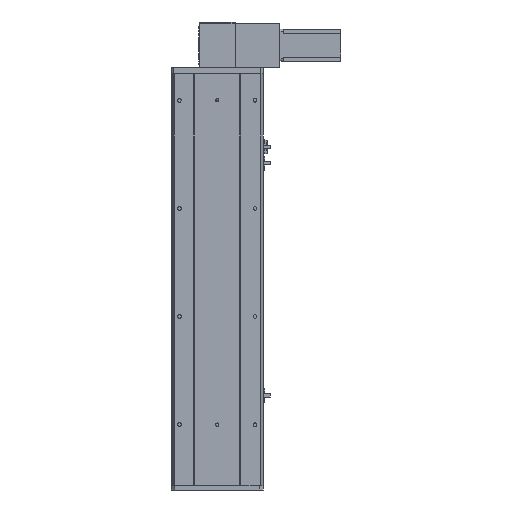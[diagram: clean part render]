
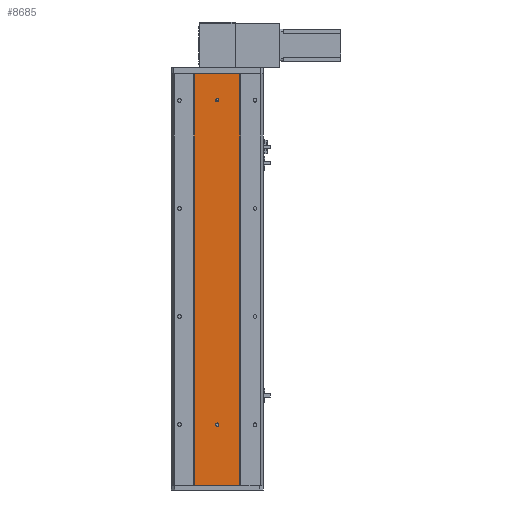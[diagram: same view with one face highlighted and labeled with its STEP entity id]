
A CAD part, front view. The second image highlights one B-rep face of the part: STEP entity #8685.
In plain terms, the highlighted planar face has unit normal (0, -1, 0).
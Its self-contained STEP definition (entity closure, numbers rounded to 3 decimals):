
#186 = CARTESIAN_POINT ( 'NONE',  ( 85., 2.57, 110. ) ) ;
#685 = FACE_BOUND ( 'NONE', #3641, .T. ) ;
#719 = VECTOR ( 'NONE', #10075, 1000. ) ;
#771 = CARTESIAN_POINT ( 'NONE',  ( 126.916, 2.57, 762. ) ) ;
#790 = VERTEX_POINT ( 'NONE', #18202 ) ;
#812 = VECTOR ( 'NONE', #4491, 1000. ) ;
#968 = CARTESIAN_POINT ( 'NONE',  ( 85., 2.57, 716. ) ) ;
#1316 = EDGE_CURVE ( 'NONE', #23487, #4113, #3991, .T. ) ;
#1735 = CIRCLE ( 'NONE', #5404, 3. ) ;
#1754 = VERTEX_POINT ( 'NONE', #23209 ) ;
#1808 = DIRECTION ( 'NONE',  ( 0., 0., 1. ) ) ;
#1982 = DIRECTION ( 'NONE',  ( 0., 1., 0. ) ) ;
#2633 = EDGE_CURVE ( 'NONE', #4153, #1754, #18711, .T. ) ;
#2766 = DIRECTION ( 'NONE',  ( 0., 1., 0. ) ) ;
#3641 = EDGE_LOOP ( 'NONE', ( #12100, #27013 ) ) ;
#3776 = CARTESIAN_POINT ( 'NONE',  ( 42.916, 2.57, 0. ) ) ;
#3991 = CIRCLE ( 'NONE', #13269, 3. ) ;
#4113 = VERTEX_POINT ( 'NONE', #968 ) ;
#4153 = VERTEX_POINT ( 'NONE', #186 ) ;
#4254 = VECTOR ( 'NONE', #16929, 1000. ) ;
#4491 = DIRECTION ( 'NONE',  ( -1., 0., 0. ) ) ;
#4703 = VERTEX_POINT ( 'NONE', #23665 ) ;
#5404 = AXIS2_PLACEMENT_3D ( 'NONE', #15266, #1982, #17364 ) ;
#6163 = DIRECTION ( 'NONE',  ( 0., 0., 1. ) ) ;
#6261 = DIRECTION ( 'NONE',  ( 0., 1., 0. ) ) ;
#6306 = CARTESIAN_POINT ( 'NONE',  ( 85., 2.57, 113. ) ) ;
#6637 = LINE ( 'NONE', #16590, #719 ) ;
#6711 = CARTESIAN_POINT ( 'NONE',  ( 42.916, 2.57, 762. ) ) ;
#6956 = ORIENTED_EDGE ( 'NONE', *, *, #16595, .T. ) ;
#7226 = ORIENTED_EDGE ( 'NONE', *, *, #1316, .T. ) ;
#7883 = DIRECTION ( 'NONE',  ( 0., 0., 1. ) ) ;
#7890 = CARTESIAN_POINT ( 'NONE',  ( 85., 2.57, 713. ) ) ;
#8097 = DIRECTION ( 'NONE',  ( 0., 1., 0. ) ) ;
#8685 = ADVANCED_FACE ( 'NONE', ( #18185, #685, #23061 ), #21756, .F. ) ;
#8700 = ORIENTED_EDGE ( 'NONE', *, *, #25759, .T. ) ;
#10075 = DIRECTION ( 'NONE',  ( 0., 0., 1. ) ) ;
#10158 = LINE ( 'NONE', #3776, #4254 ) ;
#10709 = AXIS2_PLACEMENT_3D ( 'NONE', #27250, #23451, #16482 ) ;
#11806 = CARTESIAN_POINT ( 'NONE',  ( 85., 2.57, 710. ) ) ;
#11913 = VERTEX_POINT ( 'NONE', #771 ) ;
#12100 = ORIENTED_EDGE ( 'NONE', *, *, #2633, .T. ) ;
#13269 = AXIS2_PLACEMENT_3D ( 'NONE', #7890, #8097, #7883 ) ;
#13334 = LINE ( 'NONE', #6711, #812 ) ;
#14540 = EDGE_LOOP ( 'NONE', ( #7226, #19397 ) ) ;
#15266 = CARTESIAN_POINT ( 'NONE',  ( 85., 2.57, 713. ) ) ;
#15820 = EDGE_LOOP ( 'NONE', ( #8700, #17698, #17415, #6956 ) ) ;
#15997 = CARTESIAN_POINT ( 'NONE',  ( 85., 2.57, 113. ) ) ;
#16308 = VECTOR ( 'NONE', #1808, 1000. ) ;
#16482 = DIRECTION ( 'NONE',  ( 0., 0., 1. ) ) ;
#16590 = CARTESIAN_POINT ( 'NONE',  ( 42.916, 2.57, 0. ) ) ;
#16595 = EDGE_CURVE ( 'NONE', #790, #11913, #18247, .T. ) ;
#16929 = DIRECTION ( 'NONE',  ( -1., 0., 0. ) ) ;
#17003 = EDGE_CURVE ( 'NONE', #20529, #4703, #6637, .T. ) ;
#17217 = EDGE_CURVE ( 'NONE', #4113, #23487, #1735, .T. ) ;
#17364 = DIRECTION ( 'NONE',  ( 0., 0., 1. ) ) ;
#17415 = ORIENTED_EDGE ( 'NONE', *, *, #26615, .F. ) ;
#17447 = EDGE_CURVE ( 'NONE', #1754, #4153, #19497, .T. ) ;
#17698 = ORIENTED_EDGE ( 'NONE', *, *, #17003, .F. ) ;
#18093 = DIRECTION ( 'NONE',  ( 0., 0., 1. ) ) ;
#18185 = FACE_BOUND ( 'NONE', #14540, .T. ) ;
#18202 = CARTESIAN_POINT ( 'NONE',  ( 126.916, 2.57, 0. ) ) ;
#18247 = LINE ( 'NONE', #27557, #16308 ) ;
#18711 = CIRCLE ( 'NONE', #21952, 3. ) ;
#19397 = ORIENTED_EDGE ( 'NONE', *, *, #17217, .T. ) ;
#19497 = CIRCLE ( 'NONE', #24085, 3. ) ;
#20529 = VERTEX_POINT ( 'NONE', #25803 ) ;
#21756 = PLANE ( 'NONE',  #10709 ) ;
#21952 = AXIS2_PLACEMENT_3D ( 'NONE', #6306, #6261, #6163 ) ;
#23061 = FACE_OUTER_BOUND ( 'NONE', #15820, .T. ) ;
#23209 = CARTESIAN_POINT ( 'NONE',  ( 85., 2.57, 116. ) ) ;
#23451 = DIRECTION ( 'NONE',  ( 0., 1., 0. ) ) ;
#23487 = VERTEX_POINT ( 'NONE', #11806 ) ;
#23665 = CARTESIAN_POINT ( 'NONE',  ( 42.916, 2.57, 762. ) ) ;
#24085 = AXIS2_PLACEMENT_3D ( 'NONE', #15997, #2766, #18093 ) ;
#25759 = EDGE_CURVE ( 'NONE', #11913, #4703, #13334, .T. ) ;
#25803 = CARTESIAN_POINT ( 'NONE',  ( 42.916, 2.57, 0. ) ) ;
#26615 = EDGE_CURVE ( 'NONE', #790, #20529, #10158, .T. ) ;
#27013 = ORIENTED_EDGE ( 'NONE', *, *, #17447, .T. ) ;
#27250 = CARTESIAN_POINT ( 'NONE',  ( 42.916, 2.57, 0. ) ) ;
#27557 = CARTESIAN_POINT ( 'NONE',  ( 126.916, 2.57, 0. ) ) ;
